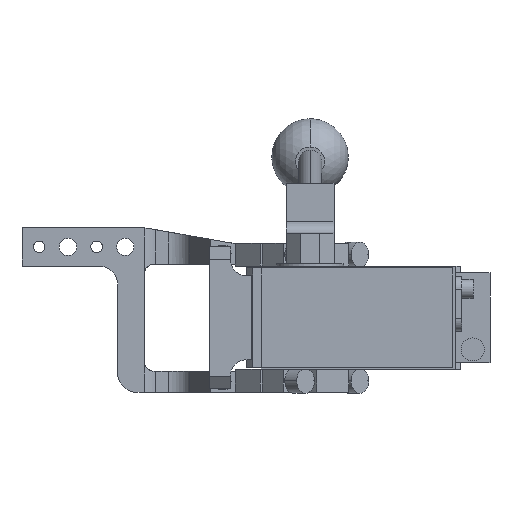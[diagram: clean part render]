
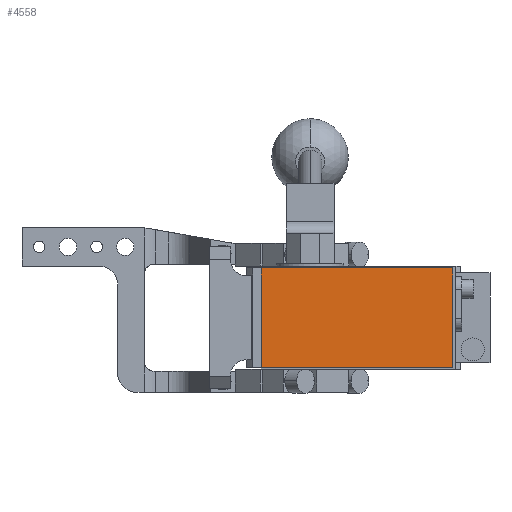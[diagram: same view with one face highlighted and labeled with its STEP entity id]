
A CAD part, front view. The second image highlights one B-rep face of the part: STEP entity #4558.
In plain terms, the highlighted planar face has unit normal (0, -1, 0).
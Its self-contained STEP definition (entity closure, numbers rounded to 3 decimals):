
#468 = EDGE_CURVE ( 'NONE', #7631, #10701, #6626, .T. ) ;
#841 = CARTESIAN_POINT ( 'NONE',  ( 81., -286.5, 26. ) ) ;
#995 = LINE ( 'NONE', #5955, #13142 ) ;
#1891 = DIRECTION ( 'NONE',  ( 1., 0., 0. ) ) ;
#2638 = VECTOR ( 'NONE', #14356, 1000. ) ;
#3662 = CARTESIAN_POINT ( 'NONE',  ( -19., -286.5, 26. ) ) ;
#4558 = ADVANCED_FACE ( 'NONE', ( #15671 ), #9445, .T. ) ;
#5092 = VERTEX_POINT ( 'NONE', #841 ) ;
#5097 = EDGE_CURVE ( 'NONE', #10701, #5092, #995, .T. ) ;
#5260 = EDGE_CURVE ( 'NONE', #5092, #12332, #14889, .T. ) ;
#5955 = CARTESIAN_POINT ( 'NONE',  ( 81., -286.5, 26. ) ) ;
#6053 = CARTESIAN_POINT ( 'NONE',  ( 81., -286.5, -26. ) ) ;
#6133 = CARTESIAN_POINT ( 'NONE',  ( -19., -286.5, 26. ) ) ;
#6306 = AXIS2_PLACEMENT_3D ( 'NONE', #12802, #6577, #15431 ) ;
#6577 = DIRECTION ( 'NONE',  ( 0., -1., 0. ) ) ;
#6626 = LINE ( 'NONE', #9176, #15621 ) ;
#6732 = LINE ( 'NONE', #7886, #2638 ) ;
#6762 = EDGE_LOOP ( 'NONE', ( #13836, #10555, #12137, #11872 ) ) ;
#7631 = VERTEX_POINT ( 'NONE', #15136 ) ;
#7886 = CARTESIAN_POINT ( 'NONE',  ( -19., -286.5, 26. ) ) ;
#8670 = DIRECTION ( 'NONE',  ( -1., 0., 0. ) ) ;
#8927 = VECTOR ( 'NONE', #8670, 1000. ) ;
#9176 = CARTESIAN_POINT ( 'NONE',  ( -19., -286.5, -26. ) ) ;
#9445 = PLANE ( 'NONE',  #6306 ) ;
#10555 = ORIENTED_EDGE ( 'NONE', *, *, #468, .T. ) ;
#10701 = VERTEX_POINT ( 'NONE', #6053 ) ;
#11872 = ORIENTED_EDGE ( 'NONE', *, *, #5260, .T. ) ;
#12103 = EDGE_CURVE ( 'NONE', #12332, #7631, #6732, .T. ) ;
#12137 = ORIENTED_EDGE ( 'NONE', *, *, #5097, .T. ) ;
#12332 = VERTEX_POINT ( 'NONE', #6133 ) ;
#12802 = CARTESIAN_POINT ( 'NONE',  ( 0., -286.5, 0. ) ) ;
#13142 = VECTOR ( 'NONE', #13193, 1000. ) ;
#13193 = DIRECTION ( 'NONE',  ( 0., 0., 1. ) ) ;
#13836 = ORIENTED_EDGE ( 'NONE', *, *, #12103, .T. ) ;
#14356 = DIRECTION ( 'NONE',  ( 0., 0., -1. ) ) ;
#14889 = LINE ( 'NONE', #3662, #8927 ) ;
#15136 = CARTESIAN_POINT ( 'NONE',  ( -19., -286.5, -26. ) ) ;
#15431 = DIRECTION ( 'NONE',  ( 0., 0., -1. ) ) ;
#15621 = VECTOR ( 'NONE', #1891, 1000. ) ;
#15671 = FACE_OUTER_BOUND ( 'NONE', #6762, .T. ) ;
